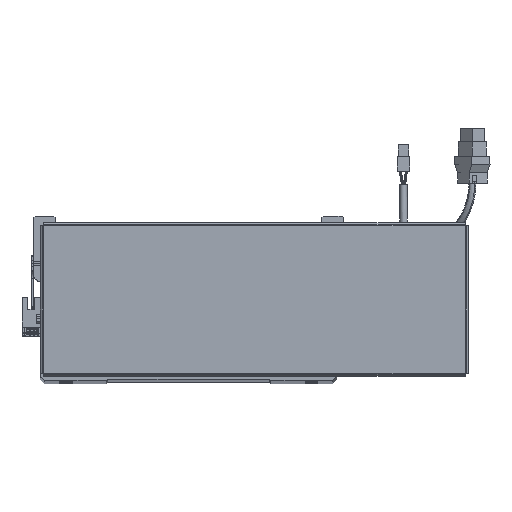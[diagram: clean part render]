
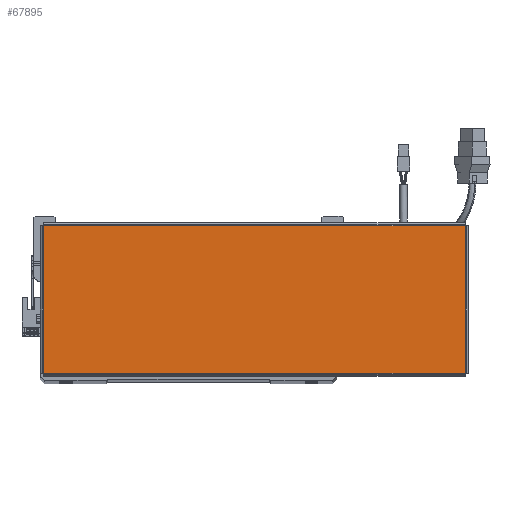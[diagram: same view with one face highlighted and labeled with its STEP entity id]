
A CAD part, top view. The second image highlights one B-rep face of the part: STEP entity #67895.
In plain terms, the highlighted planar face has unit normal (0, 0, 1).
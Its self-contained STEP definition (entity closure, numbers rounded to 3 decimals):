
#1750 = CARTESIAN_POINT ( 'NONE',  ( -156.513, -54.763, 0. ) ) ;
#2415 = LINE ( 'NONE', #27533, #55016 ) ;
#4687 = CARTESIAN_POINT ( 'NONE',  ( -156.543, -54.763, 0. ) ) ;
#7176 = CARTESIAN_POINT ( 'NONE',  ( -156.513, 54.793, 0. ) ) ;
#11114 = ORIENTED_EDGE ( 'NONE', *, *, #63139, .T. ) ;
#11311 = CARTESIAN_POINT ( 'NONE',  ( 156.513, -54.763, 0. ) ) ;
#12547 = LINE ( 'NONE', #7176, #70410 ) ;
#12786 = DIRECTION ( 'NONE',  ( 0., -1., 0. ) ) ;
#12969 = VERTEX_POINT ( 'NONE', #1750 ) ;
#23525 = VERTEX_POINT ( 'NONE', #11311 ) ;
#27414 = DIRECTION ( 'NONE',  ( 1., 0., 0. ) ) ;
#27533 = CARTESIAN_POINT ( 'NONE',  ( 156.543, 54.763, 0. ) ) ;
#27560 = ORIENTED_EDGE ( 'NONE', *, *, #63404, .T. ) ;
#28075 = CARTESIAN_POINT ( 'NONE',  ( -156.513, 54.763, 0. ) ) ;
#28578 = LINE ( 'NONE', #48432, #69684 ) ;
#30101 = VECTOR ( 'NONE', #37792, 1000. ) ;
#32316 = CARTESIAN_POINT ( 'NONE',  ( 0., 0., 0. ) ) ;
#32596 = ORIENTED_EDGE ( 'NONE', *, *, #50087, .T. ) ;
#37792 = DIRECTION ( 'NONE',  ( 1., 0., 0. ) ) ;
#38148 = ORIENTED_EDGE ( 'NONE', *, *, #44971, .T. ) ;
#43941 = DIRECTION ( 'NONE',  ( -1., 0., 0. ) ) ;
#44971 = EDGE_CURVE ( 'NONE', #23525, #48300, #28578, .T. ) ;
#46708 = VERTEX_POINT ( 'NONE', #28075 ) ;
#48300 = VERTEX_POINT ( 'NONE', #70383 ) ;
#48432 = CARTESIAN_POINT ( 'NONE',  ( 156.513, -54.793, 0. ) ) ;
#50087 = EDGE_CURVE ( 'NONE', #48300, #46708, #2415, .T. ) ;
#50943 = AXIS2_PLACEMENT_3D ( 'NONE', #32316, #60924, #27414 ) ;
#52164 = EDGE_LOOP ( 'NONE', ( #27560, #38148, #32596, #11114 ) ) ;
#55016 = VECTOR ( 'NONE', #43941, 1000. ) ;
#60924 = DIRECTION ( 'NONE',  ( 0., 0., 1. ) ) ;
#61410 = FACE_OUTER_BOUND ( 'NONE', #52164, .T. ) ;
#63139 = EDGE_CURVE ( 'NONE', #46708, #12969, #12547, .T. ) ;
#63404 = EDGE_CURVE ( 'NONE', #12969, #23525, #66010, .T. ) ;
#64827 = DIRECTION ( 'NONE',  ( 0., 1., 0. ) ) ;
#65830 = PLANE ( 'NONE',  #50943 ) ;
#66010 = LINE ( 'NONE', #4687, #30101 ) ;
#67895 = ADVANCED_FACE ( 'NONE', ( #61410 ), #65830, .T. ) ;
#69684 = VECTOR ( 'NONE', #64827, 1000. ) ;
#70383 = CARTESIAN_POINT ( 'NONE',  ( 156.513, 54.763, 0. ) ) ;
#70410 = VECTOR ( 'NONE', #12786, 1000. ) ;
